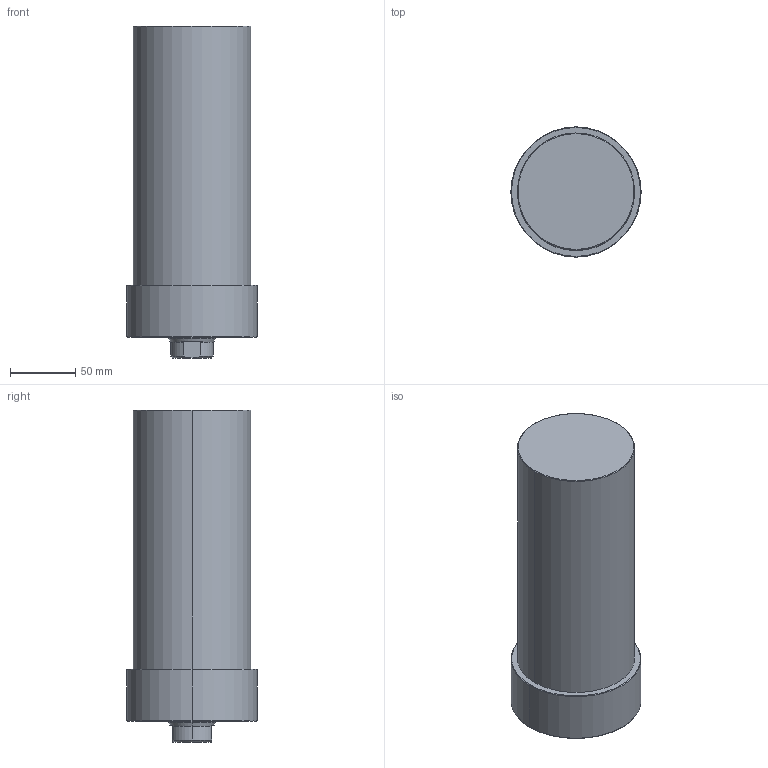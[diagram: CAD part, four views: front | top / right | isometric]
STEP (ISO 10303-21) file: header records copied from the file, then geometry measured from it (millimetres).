
FILE_DESCRIPTION (( 'STEP AP203' ), '1' );
FILE_NAME ('CLLU-090GA-145.STEP', '2020-01-13T05:37:42', ( '' ), ( '' ), 'SwSTEP 2.0', 'SolidWorks 2015', '' );
FILE_SCHEMA (( 'CONFIG_CONTROL_DESIGN' ));
Length unit declared in the file: millimetre
Products named in the file (1): CLLU-090GA-145
Bounding box: 100 x 100 x 255 mm (x, y, z)
Volume: 1573880.5 mm3; surface area: 91742.9 mm2
Topology: 1 solids, 1 shells, 64 faces, 143 edges, 80 vertices
Faces by surface type: cone 25, cylinder 23, plane 10, torus 6
Entity records: 1809 total; most frequent: DIRECTION 330, CARTESIAN_POINT 322, ORIENTED_EDGE 266, AXIS2_PLACEMENT_3D 140, EDGE_CURVE 133, VERTEX_POINT 80, CIRCLE 75, EDGE_LOOP 73
